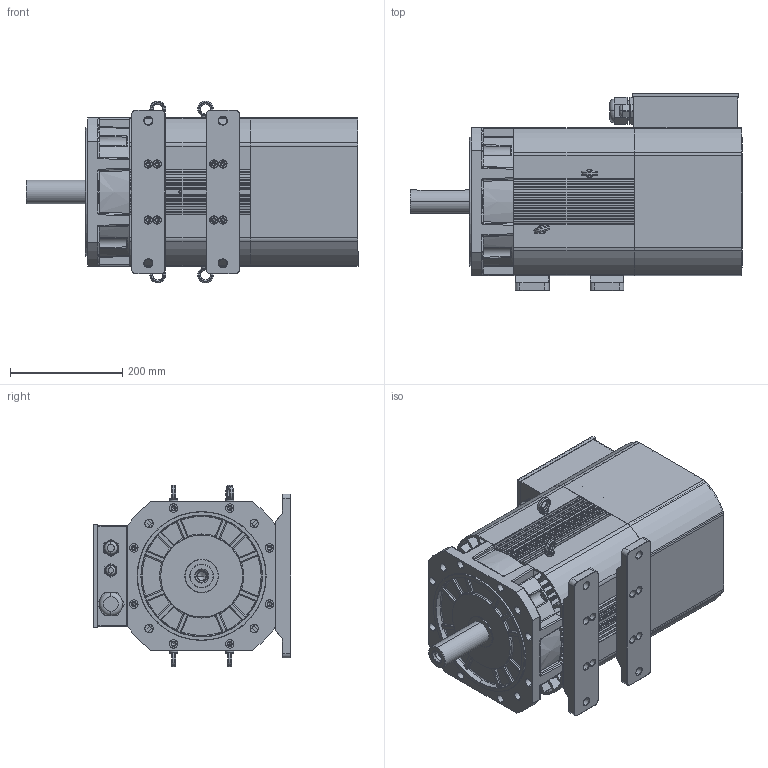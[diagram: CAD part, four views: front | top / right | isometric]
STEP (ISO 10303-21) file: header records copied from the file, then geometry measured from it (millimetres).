
FILE_DESCRIPTION (( 'STEP AP203' ), '1' );
FILE_NAME ('265S-B35-42J 俋倛芞.STEP', '2022-04-15T08:16:44', ( '' ), ( '' ), 'SwSTEP 2.0', 'SolidWorks 2016', '' );
FILE_SCHEMA (( 'CONFIG_CONTROL_DESIGN' ));
Length unit declared in the file: millimetre
Products named in the file (22): 齬脣鼠芛; ヶ裔42J粣郪璃; 接线盒后盖风罩组件; 265S-B35-42J 俋倛芞; 265芧埽ヶ傷裔; 齬脣晤鎢ん啣; 265諉盄碟裔; 265瑞欶; 諉盄碟郪璃; 265S儂褲11KW; cross recessed cheese head screws gb_GB_CROSS_SCREWS_TYPE2 M3X4-4  H type-N; M36蹟杶; 瑞儂諉盄翐; 265菁褐; 265-42J-粣11kw; 265諉盄碟; 265后端盖铸铁_光电编码器; M20X1.5蹟杶; M16X1.5蹟杶; M8X12裂遠
Assembly tree (30 placements, depth 5):
  265S-B35-42J 俋倛芞
    265S儂褲11KW
    ヶ裔42J粣郪璃
      265芧埽ヶ傷裔
      265-42J-粣11kw
    接线盒后盖风罩组件
      265后端盖铸铁_光电编码器
      265瑞欶
      諉盄碟郪璃
        265諉盄碟
        M36蹟杶
        M16X1.5蹟杶
        M20X1.5蹟杶
        265諉盄碟裔
        瑞儂諉盄翐
          瑞儂諉盄翐
          cross recessed cheese head screws gb_GB_CROSS_SCREWS_TYPE2 M3X4-4  H type-N  x6
        齬脣晤鎢ん啣
          齬脣晤鎢ん啣
          齬脣鼠芛
    M8X12裂遠  x4
    265菁褐  x2
Bounding box: 592 x 352.5 x 324 mm (x, y, z)
Volume: 7258237.8 mm3; surface area: 2208790.8 mm2
Topology: 25 solids, 25 shells, 2560 faces, 6767 edges, 4202 vertices
Faces by surface type: cylinder 1079, plane 876, cone 215, torus 184, bspline 126, sphere 80
Entity records: 76054 total; most frequent: CARTESIAN_POINT 17796, DIRECTION 12176, ORIENTED_EDGE 11478, EDGE_CURVE 5739, AXIS2_PLACEMENT_3D 4651, VERTEX_POINT 3625, VECTOR 2874, LINE 2874
